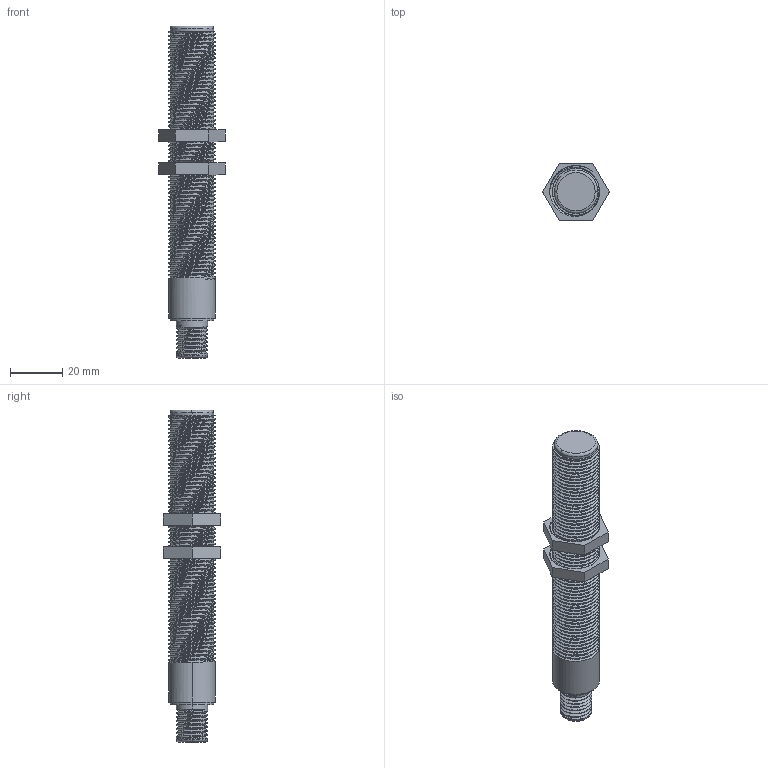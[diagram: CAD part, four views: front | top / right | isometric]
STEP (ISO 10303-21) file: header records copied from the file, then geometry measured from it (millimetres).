
FILE_DESCRIPTION((''),'2;1');
FILE_NAME('M1800_ASM','2025-12-24T16:07:32',('28740194'),(''),'CREO PARAMETRIC BY PTC INC, 2024063','CREO PARAMETRIC BY PTC INC, 2024063','');
FILE_SCHEMA(('CONFIG_CONTROL_DESIGN'));
Length unit declared in the file: millimetre
Products named in the file (3): M18; M1800; M1800_ASM
Assembly tree (3 placements, depth 2):
  M1800_ASM
    M18
    M1800  x2
Bounding box: 25.56 x 22.14 x 127.3 mm (x, y, z)
Volume: 29200 mm3; surface area: 12692 mm2
Topology: 3 solids, 3 shells, 262 faces, 711 edges, 457 vertices
Faces by surface type: cylinder 159, bspline 77, plane 22, torus 4
Entity records: 32689 total; most frequent: CARTESIAN_POINT 27542, ORIENTED_EDGE 1312, EDGE_CURVE 656, DIRECTION 625, VERTEX_POINT 421, B_SPLINE_CURVE_WITH_KNOTS 412, EDGE_LOOP 245, FACE_OUTER_BOUND 241
